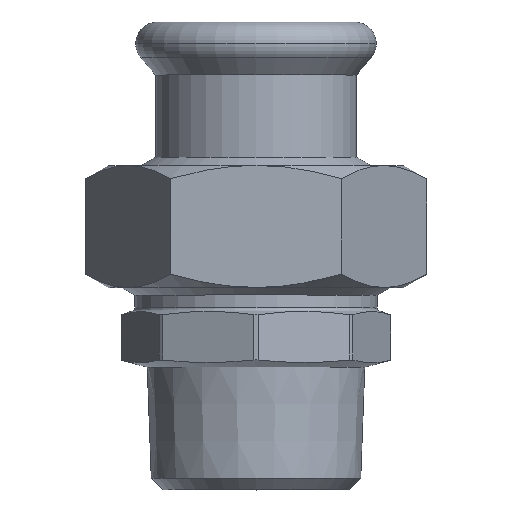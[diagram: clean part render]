
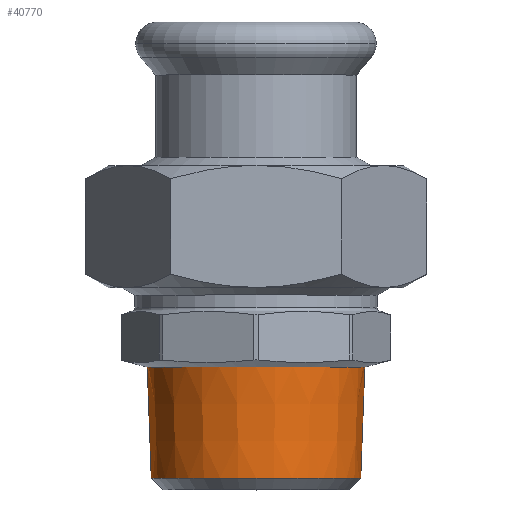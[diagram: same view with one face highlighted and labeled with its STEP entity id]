
A CAD part, top view. The second image highlights one B-rep face of the part: STEP entity #40770.
In plain terms, the highlighted conical face has half-angle 2.088 degrees and reference radius 16.931 mm.
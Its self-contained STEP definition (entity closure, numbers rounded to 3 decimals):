
#37570=CARTESIAN_POINT('',(460.313,13.362,
0.));
#37580=VERTEX_POINT('',#37570);
#40320=CARTESIAN_POINT('',(494.175,13.362,0.));
#40330=VERTEX_POINT('',#40320);
#40360=CARTESIAN_POINT('',(477.244,13.362,0.));
#40370=DIRECTION('',(0.,1.,0.));
#40380=DIRECTION('',(1.,0.,0.));
#40390=AXIS2_PLACEMENT_3D('',#40360,#40370,#40380);
#40400=CIRCLE('',#40390,16.931);
#40410=EDGE_CURVE('',#37580,#40330,#40400,.T.);
#40460=CARTESIAN_POINT('',(477.244,13.362,0.));
#40470=DIRECTION('',(0.,1.,0.));
#40480=DIRECTION('',(1.,0.,0.));
#40490=AXIS2_PLACEMENT_3D('',#40460,#40470,#40480);
#40500=CONICAL_SURFACE('',#40490,16.931,0.036);
#40510=CARTESIAN_POINT('',(460.313,13.362,
0.));
#40520=DIRECTION('',(-0.036,0.999,
0.));
#40530=VECTOR('',#40520,1.);
#40540=LINE('',#40510,#40530);
#40550=CARTESIAN_POINT('',(460.944,-3.938,
0.));
#40560=VERTEX_POINT('',#40550);
#40570=EDGE_CURVE('',#40560,#37580,#40540,.T.);
#40580=ORIENTED_EDGE('',*,*,#40570,.F.);
#40590=ORIENTED_EDGE('',*,*,#40410,.F.);
#40600=CARTESIAN_POINT('',(494.175,13.362,0.));
#40610=DIRECTION('',(0.036,0.999,0.));
#40620=VECTOR('',#40610,1.);
#40630=LINE('',#40600,#40620);
#40640=CARTESIAN_POINT('',(493.544,-3.938,0.));
#40650=VERTEX_POINT('',#40640);
#40660=EDGE_CURVE('',#40650,#40330,#40630,.T.);
#40670=ORIENTED_EDGE('',*,*,#40660,.T.);
#40680=CARTESIAN_POINT('',(477.244,-3.938,0.));
#40690=DIRECTION('',(0.,1.,0.));
#40700=DIRECTION('',(1.,0.,0.));
#40710=AXIS2_PLACEMENT_3D('',#40680,#40690,#40700);
#40720=CIRCLE('',#40710,16.3);
#40730=EDGE_CURVE('',#40560,#40650,#40720,.T.);
#40740=ORIENTED_EDGE('',*,*,#40730,.T.);
#40750=EDGE_LOOP('',(#40740,#40670,#40590,#40580));
#40760=FACE_OUTER_BOUND('',#40750,.T.);
#40770=ADVANCED_FACE('',(#40760),#40500,.T.);
